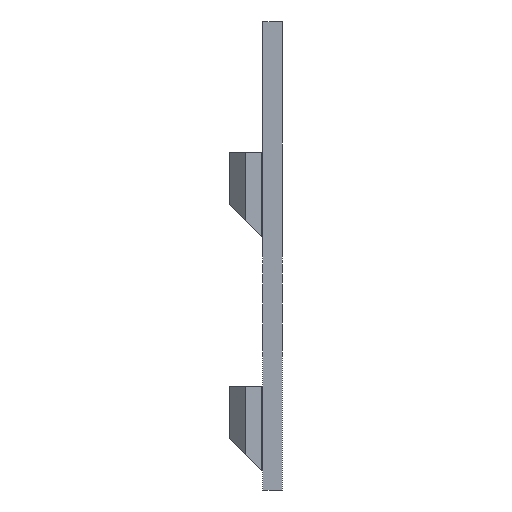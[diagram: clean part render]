
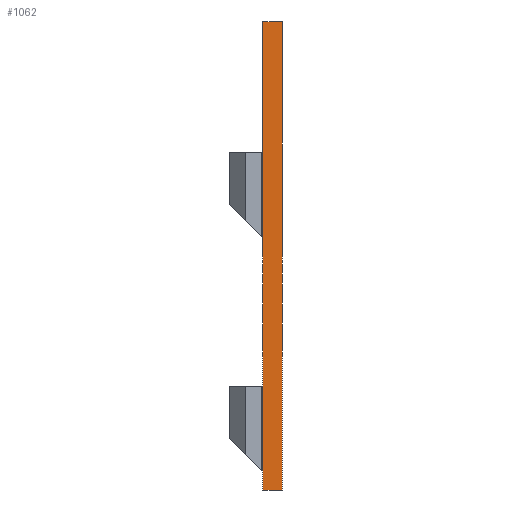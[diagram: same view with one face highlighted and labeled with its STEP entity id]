
A CAD part, front view. The second image highlights one B-rep face of the part: STEP entity #1062.
In plain terms, the highlighted planar face has unit normal (0, -1, 0).
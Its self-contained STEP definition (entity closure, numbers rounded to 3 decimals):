
#80=FACE_OUTER_BOUND('',#150,.T.);
#150=EDGE_LOOP('',(#851,#852,#853,#854));
#179=LINE('',#1465,#311);
#203=LINE('',#1529,#335);
#206=LINE('',#1535,#338);
#259=LINE('',#1654,#391);
#311=VECTOR('',#1183,10.);
#335=VECTOR('',#1225,10.);
#338=VECTOR('',#1230,10.);
#391=VECTOR('',#1349,10.);
#443=VERTEX_POINT('',#1463);
#444=VERTEX_POINT('',#1464);
#475=VERTEX_POINT('',#1528);
#477=VERTEX_POINT('',#1534);
#539=EDGE_CURVE('',#443,#444,#179,.T.);
#571=EDGE_CURVE('',#444,#475,#203,.T.);
#574=EDGE_CURVE('',#475,#477,#206,.T.);
#633=EDGE_CURVE('',#477,#443,#259,.F.);
#851=ORIENTED_EDGE('',*,*,#539,.F.);
#852=ORIENTED_EDGE('',*,*,#633,.F.);
#853=ORIENTED_EDGE('',*,*,#574,.F.);
#854=ORIENTED_EDGE('',*,*,#571,.F.);
#1008=PLANE('',#1148);
#1062=ADVANCED_FACE('',(#80),#1008,.F.);
#1148=AXIS2_PLACEMENT_3D('',#1653,#1347,#1348);
#1183=DIRECTION('',(0.,0.,1.));
#1225=DIRECTION('',(1.,0.,0.));
#1230=DIRECTION('',(0.,0.,-1.));
#1347=DIRECTION('center_axis',(0.,1.,0.));
#1348=DIRECTION('ref_axis',(0.,0.,1.));
#1349=DIRECTION('',(1.,0.,0.));
#1463=CARTESIAN_POINT('',(0.15,147.2,21.248));
#1464=CARTESIAN_POINT('',(0.15,147.2,93.995));
#1465=CARTESIAN_POINT('',(0.15,147.2,65.197));
#1528=CARTESIAN_POINT('',(3.15,147.2,93.995));
#1529=CARTESIAN_POINT('',(0.862,147.2,93.995));
#1534=CARTESIAN_POINT('',(3.15,147.2,21.248));
#1535=CARTESIAN_POINT('',(3.15,147.2,42.547));
#1653=CARTESIAN_POINT('Origin',(0.15,147.2,48.638));
#1654=CARTESIAN_POINT('',(0.15,147.2,21.248));
